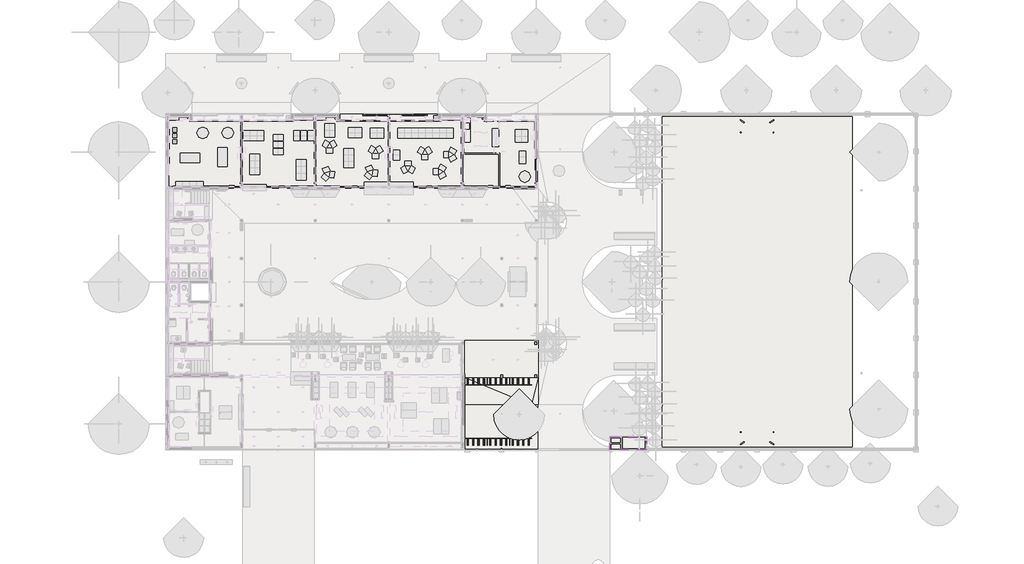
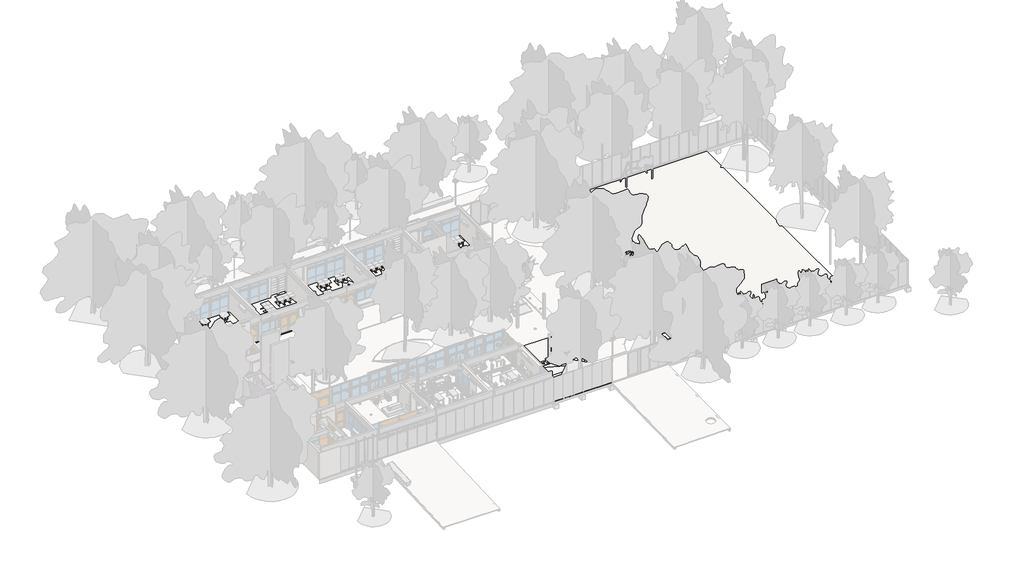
# One storey, part 11 of 22: 13 slabs.
"""IFC4 building model written with IfcOpenShell, lengths in millimetres."""

from ifc_helpers import new_model, si_unit, point, frame, origin, place, context, project, spatial, polyline, circle_curve, ellipse_curve, trimmed, outline, extrude, faceted_brep, element, save
from ifc_brep_helpers import plane_surface, revolved_surface, extruded_surface, advanced_brep

model = new_model("IFC4")

# Units and contexts
model_context = context("Model", 3, world=origin())
ifc_project = project(units=[si_unit("LENGTHUNIT", "METRE", prefix="MILLI")], contexts=[model_context])

# Site, building, storey
site = spatial("IfcSite", under=ifc_project)
building = spatial("IfcBuilding", under=site)
storey = spatial("IfcBuildingStorey", under=building, Name="PLanta baja", Elevation=0.0)

# Slabs
placement = place(None, origin())
element("IfcSlab", 1, ObjectType="P1 Cancha", at=placement, inside=storey, context=model_context, shape_type="Brep", body=[
    faceted_brep([(49747.2173693, 31319.0534459, -310.0), (67237.2173693, 31319.0534459, -310.0), (67237.2173693, 629.0534459, -310.0), (49747.2173693, 629.0534459, -310.0), (67387.2173693, 479.0534459, -50.0), (67387.2173693, 31469.0534459, -50.0), (49597.2173693, 31469.0534459, -50.0), (49597.2173693, 479.0534459, -50.0), (67387.2173693, 479.0534459, -160.0), (67387.2173693, 629.0534459, -160.0), (67387.2173693, 31469.0534459, -160.0), (49597.2173693, 479.0534459, -160.0), (49747.2173693, 479.0534459, -160.0), (49597.2173693, 31469.0534459, -160.0), (67237.2173693, 31469.0534459, -160.0), (49747.2173693, 31469.0534459, -160.0), (49747.2173693, 629.0534459, -160.0), (67237.2173693, 629.0534459, -160.0), (67237.2173693, 31319.0534459, -160.0), (49747.2173693, 31319.0534459, -160.0)], [[[0, 1, 2, 3]], [[4, 5, 6, 7]], [[5, 4, 8, 9, 10]], [[4, 7, 11, 12, 8]], [[7, 6, 13, 11]], [[6, 5, 10, 14, 15, 13]], [[16, 3, 2, 17]], [[8, 12, 11, 13, 15, 14, 10, 9], [16, 17, 18, 19]], [[19, 18, 1, 0]], [[16, 19, 0, 3]], [[18, 17, 2, 1]]]),
])
element("IfcSlab", 2, ObjectType="CONTRAPISO H.A. 15cm", at=placement, inside=storey, context=model_context, shape_type="Brep", body=[
    faceted_brep([(45858.7173693, 1368.5637368, -80.0), (45858.7173693, 1468.5637368, -80.0), (48058.7173693, 1468.5637368, -80.0), (48058.7173693, 1368.5637368, -80.0), (48058.7173693, 360.2304035, -80.0), (48058.7173693, 310.2304035, -80.0), (44788.7173693, 310.2304035, -80.0), (44788.7173693, 360.2304035, -80.0), (44788.7173693, 1368.5637368, -80.0), (45858.7173693, 1368.5637368, 70.0), (45838.7173693, 1368.5637368, 70.0), (44798.7173693, 1368.5637368, 70.0), (44788.7173693, 1368.5637368, 70.0), (44788.7173693, 310.2304035, 70.0), (44798.7173693, 310.2304035, 70.0), (48028.7173693, 310.2304035, 70.0), (48058.7173693, 310.2304035, 70.0), (48058.7173693, 1358.5637368, 70.0), (48058.7173693, 1368.5637368, 70.0), (48058.7173693, 1468.5637368, 70.0), (48038.7173693, 1468.5637368, 70.0), (45858.7173693, 1468.5637368, 70.0), (48058.7173693, 310.2304035, -50.0), (44788.7173693, 310.2304035, -50.0), (44788.7173693, 1368.5637368, -53.946748), (45858.7173693, 1368.5637368, -53.9365478), (45858.7173693, 1468.5637368, -53.9365478), (48058.7173693, 1468.5637368, -52.4097896), (48058.7173693, 1468.5637368, -53.9365478)], [[[0, 1, 2, 3, 4, 5, 6, 7, 8]], [[9, 10, 11, 12, 13, 14, 15, 16, 17, 18, 19, 20, 21]], [[5, 4, 3, 18, 17, 16, 22]], [[6, 5, 22, 16, 15, 14, 13, 23]], [[8, 7, 6, 23, 13, 12, 24]], [[0, 8, 24, 12, 11, 10, 9, 25]], [[1, 0, 25, 9, 21, 26]], [[2, 1, 26, 21, 20, 19, 27, 28]], [[3, 2, 28, 27, 19, 18]]]),
])
element("IfcSlab", 3, ObjectType="MESA-INT-Mesada de hormigón-6cm-PET", at=placement, inside=storey, context=model_context, shape_type="AdvancedBrep", body=[
    advanced_brep(
    [(31003.7173693, 31420.2304035, 828.0), (31609.7173693, 31420.2304035, 828.0), (31609.7173693, 29215.2304035, 828.0), (31609.7173693, 29060.2304035, 828.0), (31003.7173693, 29060.2304035, 828.0), (31003.7173693, 29215.2304035, 828.0), (31003.7173693, 31020.2304035, 828.0), (31003.7173693, 31130.2304035, 828.0), (31158.7173693, 30855.23044, 828.0), (31158.7173693, 30265.23044, 828.0), (31509.7173693, 30265.23044, 828.0), (31509.7173693, 30855.23044, 828.0), (31070.7990924, 30560.2304035, 828.0), (31110.7990924, 30560.2304035, 828.0), (31003.7173693, 31420.2304035, 888.0), (31003.7173693, 29060.2304035, 888.0), (31609.7173693, 29060.2304035, 888.0), (31609.7173693, 31420.2304035, 888.0), (31158.7173693, 30855.23044, 888.0), (31509.7173693, 30855.23044, 888.0), (31509.7173693, 30265.23044, 888.0), (31158.7173693, 30265.23044, 888.0), (31070.7990924, 30560.2304035, 888.0), (31110.7990924, 30560.2304035, 888.0)],
    [
        (0, 1),
        (1, 2),
        (2, 3),
        (3, 4),
        (4, 5),
        (5, 6),
        (6, 7),
        (7, 0),
        (8, 9),
        (9, 10),
        (10, 11),
        (11, 8),
        (12, 13, circle_curve(frame((31090.7990924, 30560.2304035, 828.0), z_axis=(0.0, 0.0, 1.0), x_axis=(1.0, 0.0, 0.0)), 20.0)),
        (13, 12, circle_curve(frame((31090.7990924, 30560.2304035, 828.0), z_axis=(0.0, 0.0, 1.0), x_axis=(1.0, 0.0, 0.0)), 20.0)),
        (14, 15),
        (15, 16),
        (16, 17),
        (17, 14),
        (18, 19),
        (19, 20),
        (20, 21),
        (21, 18),
        (22, 23, circle_curve(frame((31090.7990924, 30560.2304035, 888.0), z_axis=(0.0, 0.0, -1.0), x_axis=(1.0, 0.0, 0.0)), 20.0)),
        (23, 22, circle_curve(frame((31090.7990924, 30560.2304035, 888.0), z_axis=(0.0, 0.0, -1.0), x_axis=(1.0, 0.0, 0.0)), 20.0)),
        (0, 14),
        (17, 1),
        (16, 3),
        (15, 4),
        (8, 18),
        (21, 9),
        (20, 10),
        (19, 11),
        (12, 22),
        (23, 13),
    ],
    [
        plane_surface(frame((31053.7173693, 31420.2304035, 828.0), z_axis=(0.0, 0.0, -1.0), x_axis=(1.0, 0.0, 0.0))),
        plane_surface(frame((31053.7173693, 31420.2304035, 888.0), z_axis=(0.0, 0.0, 1.0), x_axis=(-1.0, 0.0, 0.0))),
        plane_surface(frame((31003.7173693, 31420.2304035, 828.0), z_axis=(0.0, 1.0, 0.0), x_axis=(0.0, 0.0, 1.0))),
        plane_surface(frame((31609.7173693, 31420.2304035, 828.0), z_axis=(1.0, 0.0, 0.0), x_axis=(0.0, 0.0, 1.0))),
        plane_surface(frame((31609.7173693, 29060.2304035, 828.0), z_axis=(0.0, -1.0, 0.0), x_axis=(0.0, 0.0, 1.0))),
        plane_surface(frame((31003.7173693, 29060.2304035, 828.0), z_axis=(-1.0, 0.0, 0.0), x_axis=(0.0, 0.0, 1.0))),
        plane_surface(frame((31158.7173693, 30855.23044, 828.0), z_axis=(1.0, 0.0, 0.0), x_axis=(0.0, 0.0, 1.0))),
        plane_surface(frame((31158.7173693, 30265.23044, 828.0), z_axis=(0.0, 1.0, 0.0), x_axis=(0.0, 0.0, 1.0))),
        plane_surface(frame((31509.7173693, 30265.23044, 828.0), z_axis=(-1.0, 0.0, 0.0), x_axis=(0.0, 0.0, 1.0))),
        plane_surface(frame((31509.7173693, 30855.23044, 828.0), z_axis=(0.0, -1.0, 0.0), x_axis=(0.0, 0.0, 1.0))),
        revolved_surface(polyline([(31110.7990924, 30560.2304035, 888.0), (31110.7990924, 30560.2304035, 828.0)]), (31090.7990924, 30560.2304035, 0.0), (0.0, 0.0, 1.0)),
    ],
    [
        (0, [[1, 2, 3, 4, 5, 6, 7, 8], [9, 10, 11, 12], [13, 14]]),
        (1, [[15, 16, 17, 18], [19, 20, 21, 22], [23, 24]]),
        (2, [[-1, 25, -18, 26]]),
        (3, [[-3, -2, -26, -17, 27]]),
        (4, [[-4, -27, -16, 28]]),
        (5, [[-8, -7, -6, -5, -28, -15, -25]]),
        (6, [[-9, 29, -22, 30]]),
        (7, [[-10, -30, -21, 31]]),
        (8, [[-11, -31, -20, 32]]),
        (9, [[-12, -32, -19, -29]]),
        (10, [[-13, 33, -24, 34]]),
        (10, [[-14, -34, -23, -33]]),
    ],
),
])
element("IfcSlab", 4, ObjectType="BANQUINA 13cm", at=placement, inside=storey, context=model_context, shape_type="SweptSolid", body=[
    extrude(outline(polyline([(31543.7173693, 31020.2304035), (31543.7173693, 29215.2304035), (31003.7173693, 29215.2304035), (31003.7173693, 31020.2304035), (31543.7173693, 31020.2304035)])), frame((0.0, 0.0, -50.0), z_axis=(0.0, 0.0, 1.0), x_axis=(1.0, 0.0, 0.0)), (0.0, 0.0, 1.0), 120.0),
])
element("IfcSlab", 5, ObjectType="C30 MONOLITICO 30x30 5cm", at=placement, inside=storey, context=model_context, shape_type="AdvancedBrep", body=[
    advanced_brep(
    [(3403.7173694, 31430.2304035, -50.0), (5288.7173693, 31430.2304035, -50.0), (5288.7173693, 31020.2304035, -50.0), (5588.7173693, 31020.2304035, -50.0), (10288.7173694, 31020.2304035, -50.0), (15088.7173693, 31020.2304035, -50.0), (15088.7173693, 31430.2304035, -50.0), (16988.7173693, 31430.2304035, -50.0), (16988.7173693, 31020.2304035, -50.0), (17188.7173694, 31020.2304035, -50.0), (17188.7173694, 31430.2304035, -50.0), (19088.7173693, 31430.2304035, -50.0), (19088.7173693, 31020.2304035, -50.0), (19388.7173693, 31020.2304035, -50.0), (28888.7173693, 31020.2304035, -50.0), (28888.7173693, 31430.2304035, -50.0), (30788.7173693, 31430.2304035, -50.0), (30788.7173693, 31020.2304035, -50.0), (31003.7173693, 31020.2304035, -50.0), (31003.7173693, 29215.2304035, -50.0), (31003.7173693, 29060.2304035, -50.0), (31543.7173693, 29060.2304035, -50.0), (31543.7173693, 29215.2304035, -50.0), (31543.7173693, 31020.2304035, -50.0), (31609.7173693, 31020.2304035, -50.0), (31609.7173693, 31420.2304035, -50.0), (32878.7173693, 31420.2304035, -50.0), (32878.7173693, 31020.2304035, -50.0), (37673.7173693, 31020.2304035, -50.0), (37673.7173693, 27520.2304035, -50.0), (37688.7173693, 27520.2304035, -50.0), (37688.7173693, 24720.3804035, -50.0), (33188.7173693, 24720.3804035, -50.0), (33188.7173693, 24920.2304035, -50.0), (30988.7173693, 24920.2304035, -50.0), (30988.7173693, 25320.2304035, -50.0), (30788.7173693, 25320.2304035, -50.0), (30788.7173693, 24920.2304035, -50.0), (28588.7173694, 24920.2304035, -50.0), (28588.7173694, 24720.2304035, -50.0), (24088.7173694, 24720.2304035, -50.0), (24088.7173694, 24920.2304035, -50.0), (24088.7173694, 25320.2304035, -50.0), (23888.7173694, 25320.2304035, -50.0), (23888.7173694, 24920.2304035, -50.0), (23888.7173694, 24720.2304035, -50.0), (19388.7173693, 24720.2304035, -50.0), (19388.7173693, 24920.2304035, -50.0), (17188.7173694, 24920.2304035, -50.0), (17188.7173694, 25320.2304035, -50.0), (16988.7173694, 25320.2304035, -50.0), (16988.7173694, 24920.2304035, -50.0), (14788.7173694, 24920.2304035, -50.0), (14788.7173694, 24720.2304035, -50.0), (10288.7173694, 24720.2304035, -50.0), (10288.7173694, 25320.2304035, -50.0), (10088.7173694, 25320.2304035, -50.0), (10088.7173694, 24720.2304035, -50.0), (8938.7173694, 24720.2304035, -50.0), (8938.7173694, 24935.2304035, -50.0), (3788.7173693, 24935.2304035, -50.0), (3788.7173693, 24920.2304035, -50.0), (3388.7173694, 24920.2304035, -50.0), (3388.7173694, 27020.2304035, -50.0), (3403.7173694, 27020.2304035, -50.0), (32738.7518286, 31272.1143538, -50.0), (32838.7518286, 31272.1143538, -50.0), (18947.5018286, 31271.4893538, -50.0), (19047.5018286, 31271.4893538, -50.0), (5143.7563809, 31272.1210634, -50.0), (5243.7563809, 31272.1210634, -50.0), (3403.7173694, 31430.2304035, 0.0), (3403.7173694, 27020.2304035, 0.0), (3388.7173694, 27020.2304035, 0.0), (3388.7173694, 24920.2304035, 0.0), (3788.7173693, 24920.2304035, 0.0), (3788.7173693, 24935.2304035, 0.0), (8938.7173694, 24935.2304035, 0.0), (8938.7173694, 24720.2304035, 0.0), (10088.7173694, 24720.2304035, 0.0), (10088.7173694, 25320.2304035, 0.0), (10288.7173694, 25320.2304035, 0.0), (10288.7173694, 24720.2304035, 0.0), (14788.7173694, 24720.2304035, 0.0), (14788.7173694, 24920.2304035, 0.0), (16988.7173694, 24920.2304035, 0.0), (16988.7173694, 25320.2304035, 0.0), (17188.7173694, 25320.2304035, 0.0), (17188.7173694, 24920.2304035, 0.0), (19388.7173693, 24920.2304035, 0.0), (19388.7173693, 24720.2304035, 0.0), (23888.7173694, 24720.2304035, 0.0), (23888.7173694, 24920.2304035, 0.0), (23888.7173694, 25320.2304035, 0.0), (24088.7173694, 25320.2304035, 0.0), (24088.7173694, 24920.2304035, 0.0), (24088.7173694, 24720.2304035, 0.0), (28588.7173694, 24720.2304035, 0.0), (28588.7173694, 24920.2304035, 0.0), (30788.7173693, 24920.2304035, 0.0), (30788.7173693, 25320.2304035, 0.0), (30988.7173693, 25320.2304035, 0.0), (30988.7173693, 24920.2304035, 0.0), (33188.7173693, 24920.2304035, 0.0), (33188.7173693, 24720.3804035, 0.0), (37688.7173693, 24720.3804035, 0.0), (37688.7173693, 27520.2304035, 0.0), (37673.7173693, 27520.2304035, 0.0), (37673.7173693, 31020.2304035, 0.0), (32878.7173693, 31020.2304035, 0.0), (32878.7173693, 31420.2304035, 0.0), (31609.7173693, 31420.2304035, 0.0), (31609.7173693, 31020.2304035, 0.0), (31543.7173693, 31020.2304035, 0.0), (31543.7173693, 29215.2304035, 0.0), (31543.7173693, 29060.2304035, 0.0), (31003.7173693, 29060.2304035, 0.0), (31003.7173693, 31020.2304035, 0.0), (30788.7173693, 31020.2304035, 0.0), (30788.7173693, 31430.2304035, 0.0), (28888.7173693, 31430.2304035, 0.0), (28888.7173693, 31020.2304035, 0.0), (19388.7173693, 31020.2304035, 0.0), (19088.7173693, 31020.2304035, 0.0), (19088.7173693, 31430.2304035, 0.0), (17188.7173694, 31430.2304035, 0.0), (17188.7173694, 31020.2304035, 0.0), (16988.7173693, 31020.2304035, 0.0), (16988.7173693, 31430.2304035, 0.0), (15088.7173693, 31430.2304035, 0.0), (15088.7173693, 31020.2304035, 0.0), (10288.7173694, 31020.2304035, 0.0), (5588.7173693, 31020.2304035, 0.0), (5288.7173693, 31020.2304035, 0.0), (5288.7173693, 31430.2304035, 0.0), (32738.7518286, 31272.1143538, 0.0), (32838.7518286, 31272.1143538, 0.0), (18947.5018286, 31271.4893538, 0.0), (19047.5018286, 31271.4893538, 0.0), (5143.7563809, 31272.1210634, 0.0), (5243.7563809, 31272.1210634, 0.0)],
    [
        (0, 1),
        (1, 2),
        (2, 3),
        (3, 4),
        (4, 5),
        (5, 6),
        (6, 7),
        (7, 8),
        (8, 9),
        (9, 10),
        (10, 11),
        (11, 12),
        (12, 13),
        (13, 14),
        (14, 15),
        (15, 16),
        (16, 17),
        (17, 18),
        (18, 19),
        (19, 20),
        (20, 21),
        (21, 22),
        (22, 23),
        (23, 24),
        (24, 25),
        (25, 26),
        (26, 27),
        (27, 28),
        (28, 29),
        (29, 30),
        (30, 31),
        (31, 32),
        (32, 33),
        (33, 34),
        (34, 35),
        (35, 36),
        (36, 37),
        (37, 38),
        (38, 39),
        (39, 40),
        (40, 41),
        (41, 42),
        (42, 43),
        (43, 44),
        (44, 45),
        (45, 46),
        (46, 47),
        (47, 48),
        (48, 49),
        (49, 50),
        (50, 51),
        (51, 52),
        (52, 53),
        (53, 54),
        (54, 55),
        (55, 56),
        (56, 57),
        (57, 58),
        (58, 59),
        (59, 60),
        (60, 61),
        (61, 62),
        (62, 63),
        (63, 64),
        (64, 0),
        (65, 66, circle_curve(frame((32788.7518286, 31272.1143538, -50.0), z_axis=(0.0, 0.0, 1.0), x_axis=(1.0, 0.0, 0.0)), 50.0)),
        (66, 65, circle_curve(frame((32788.7518286, 31272.1143538, -50.0), z_axis=(0.0, 0.0, 1.0), x_axis=(1.0, 0.0, 0.0)), 50.0)),
        (67, 68, circle_curve(frame((18997.5018286, 31271.4893538, -50.0), z_axis=(0.0, 0.0, 1.0), x_axis=(1.0, 0.0, 0.0)), 50.0)),
        (68, 67, circle_curve(frame((18997.5018286, 31271.4893538, -50.0), z_axis=(0.0, 0.0, 1.0), x_axis=(1.0, 0.0, 0.0)), 50.0)),
        (69, 70, circle_curve(frame((5193.7563809, 31272.1210634, -50.0), z_axis=(0.0, 0.0, 1.0), x_axis=(1.0, 0.0, 0.0)), 50.0)),
        (70, 69, circle_curve(frame((5193.7563809, 31272.1210634, -50.0), z_axis=(0.0, 0.0, 1.0), x_axis=(1.0, 0.0, 0.0)), 50.0)),
        (71, 72),
        (72, 73),
        (73, 74),
        (74, 75),
        (75, 76),
        (76, 77),
        (77, 78),
        (78, 79),
        (79, 80),
        (80, 81),
        (81, 82),
        (82, 83),
        (83, 84),
        (84, 85),
        (85, 86),
        (86, 87),
        (87, 88),
        (88, 89),
        (89, 90),
        (90, 91),
        (91, 92),
        (92, 93),
        (93, 94),
        (94, 95),
        (95, 96),
        (96, 97),
        (97, 98),
        (98, 99),
        (99, 100),
        (100, 101),
        (101, 102),
        (102, 103),
        (103, 104),
        (104, 105),
        (105, 106),
        (106, 107),
        (107, 108),
        (108, 109),
        (109, 110),
        (110, 111),
        (111, 112),
        (112, 113),
        (113, 114),
        (114, 115),
        (115, 116),
        (116, 117),
        (117, 118),
        (118, 119),
        (119, 120),
        (120, 121),
        (121, 122),
        (122, 123),
        (123, 124),
        (124, 125),
        (125, 126),
        (126, 127),
        (127, 128),
        (128, 129),
        (129, 130),
        (130, 131),
        (131, 132),
        (132, 133),
        (133, 134),
        (134, 71),
        (135, 136, circle_curve(frame((32788.7518286, 31272.1143538, 0.0), z_axis=(0.0, 0.0, -1.0), x_axis=(1.0, 0.0, 0.0)), 50.0)),
        (136, 135, circle_curve(frame((32788.7518286, 31272.1143538, 0.0), z_axis=(0.0, 0.0, -1.0), x_axis=(1.0, 0.0, 0.0)), 50.0)),
        (137, 138, circle_curve(frame((18997.5018286, 31271.4893538, 0.0), z_axis=(0.0, 0.0, -1.0), x_axis=(1.0, 0.0, 0.0)), 50.0)),
        (138, 137, circle_curve(frame((18997.5018286, 31271.4893538, 0.0), z_axis=(0.0, 0.0, -1.0), x_axis=(1.0, 0.0, 0.0)), 50.0)),
        (139, 140, circle_curve(frame((5193.7563809, 31272.1210634, 0.0), z_axis=(0.0, 0.0, -1.0), x_axis=(1.0, 0.0, 0.0)), 50.0)),
        (140, 139, circle_curve(frame((5193.7563809, 31272.1210634, 0.0), z_axis=(0.0, 0.0, -1.0), x_axis=(1.0, 0.0, 0.0)), 50.0)),
        (0, 71),
        (134, 1),
        (133, 2),
        (132, 3),
        (131, 4),
        (130, 5),
        (129, 6),
        (128, 7),
        (127, 8),
        (126, 9),
        (125, 10),
        (124, 11),
        (123, 12),
        (122, 13),
        (121, 14),
        (120, 15),
        (119, 16),
        (118, 17),
        (117, 18),
        (21, 115),
        (113, 23),
        (25, 111),
        (110, 26),
        (109, 27),
        (108, 28),
        (107, 29),
        (106, 30),
        (105, 31),
        (33, 103),
        (102, 34),
        (101, 35),
        (100, 36),
        (99, 37),
        (98, 38),
        (41, 95),
        (94, 42),
        (93, 43),
        (92, 44),
        (47, 89),
        (88, 48),
        (87, 49),
        (86, 50),
        (85, 51),
        (84, 52),
        (54, 82),
        (81, 55),
        (80, 56),
        (79, 57),
        (59, 77),
        (76, 60),
        (64, 72),
        (65, 135),
        (136, 66),
        (67, 137),
        (138, 68),
        (69, 139),
        (140, 70),
        (116, 20),
        (62, 74),
        (73, 63),
        (75, 61),
        (97, 39),
        (96, 40),
        (91, 45),
        (90, 46),
        (112, 24),
        (104, 32),
        (83, 53),
        (78, 58),
    ],
    [
        plane_surface(frame((3388.7173694, 31430.2304035, -50.0), z_axis=(0.0, 0.0, -1.0), x_axis=(1.0, 0.0, 0.0))),
        plane_surface(frame((3388.7173694, 31430.2304035, 0.0), z_axis=(0.0, 0.0, 1.0), x_axis=(-1.0, 0.0, 0.0))),
        plane_surface(frame((3403.7173694, 31430.2304035, -50.0), z_axis=(0.0, 1.0, 0.0), x_axis=(0.0, 0.0, 1.0))),
        plane_surface(frame((5288.7173693, 31430.2304035, -50.0), z_axis=(1.0, 0.0, 0.0), x_axis=(0.0, 0.0, 1.0))),
        plane_surface(frame((5288.7173693, 31020.2304035, -50.0), z_axis=(0.0, 1.0, 0.0), x_axis=(0.0, 0.0, 1.0))),
        plane_surface(frame((5588.7173693, 31020.2304035, -50.0), z_axis=(0.0, 1.0, 0.0), x_axis=(0.0, 0.0, 1.0))),
        plane_surface(frame((10288.7173694, 31020.2304035, -50.0), z_axis=(0.0, 1.0, 0.0), x_axis=(0.0, 0.0, 1.0))),
        plane_surface(frame((15088.7173693, 31020.2304035, -50.0), z_axis=(-1.0, 0.0, 0.0), x_axis=(0.0, 0.0, 1.0))),
        plane_surface(frame((15088.7173693, 31430.2304035, -50.0), z_axis=(0.0, 1.0, 0.0), x_axis=(0.0, 0.0, 1.0))),
        plane_surface(frame((16988.7173693, 31430.2304035, -50.0), z_axis=(1.0, 0.0, 0.0), x_axis=(0.0, 0.0, 1.0))),
        plane_surface(frame((16988.7173693, 31020.2304035, -50.0), z_axis=(0.0, 1.0, 0.0), x_axis=(0.0, 0.0, 1.0))),
        plane_surface(frame((17188.7173694, 31020.2304035, -50.0), z_axis=(-1.0, 0.0, 0.0), x_axis=(0.0, 0.0, 1.0))),
        plane_surface(frame((17188.7173694, 31430.2304035, -50.0), z_axis=(0.0, 1.0, 0.0), x_axis=(0.0, 0.0, 1.0))),
        plane_surface(frame((19088.7173693, 31430.2304035, -50.0), z_axis=(1.0, 0.0, 0.0), x_axis=(0.0, 0.0, 1.0))),
        plane_surface(frame((19088.7173693, 31020.2304035, -50.0), z_axis=(0.0, 1.0, 0.0), x_axis=(0.0, 0.0, 1.0))),
        plane_surface(frame((19388.7173693, 31020.2304035, -50.0), z_axis=(0.0, 1.0, 0.0), x_axis=(0.0, 0.0, 1.0))),
        plane_surface(frame((28888.7173693, 31020.2304035, -50.0), z_axis=(-1.0, 0.0, 0.0), x_axis=(0.0, 0.0, 1.0))),
        plane_surface(frame((28888.7173693, 31430.2304035, -50.0), z_axis=(0.0, 1.0, 0.0), x_axis=(0.0, 0.0, 1.0))),
        plane_surface(frame((30788.7173693, 31430.2304035, -50.0), z_axis=(1.0, 0.0, 0.0), x_axis=(0.0, 0.0, 1.0))),
        plane_surface(frame((30788.7173693, 31020.2304035, -50.0), z_axis=(0.0, 1.0, 0.0), x_axis=(0.0, 0.0, 1.0))),
        plane_surface(frame((31543.7173693, 29060.2304035, -50.0), z_axis=(-1.0, 0.0, 0.0), x_axis=(0.0, 0.0, 1.0))),
        plane_surface(frame((31609.7173693, 31420.2304035, -50.0), z_axis=(0.0, 1.0, 0.0), x_axis=(0.0, 0.0, 1.0))),
        plane_surface(frame((32878.7173693, 31420.2304035, -50.0), z_axis=(1.0, 0.0, 0.0), x_axis=(0.0, 0.0, 1.0))),
        plane_surface(frame((32878.7173693, 31020.2304035, -50.0), z_axis=(0.0, 1.0, 0.0), x_axis=(0.0, 0.0, 1.0))),
        plane_surface(frame((37673.7173693, 31020.2304035, -50.0), z_axis=(1.0, 0.0, 0.0), x_axis=(0.0, 0.0, 1.0))),
        plane_surface(frame((37673.7173693, 27520.2304035, -50.0), z_axis=(0.0, 1.0, 0.0), x_axis=(0.0, 0.0, 1.0))),
        plane_surface(frame((37688.7173693, 27520.2304035, -50.0), z_axis=(1.0, 0.0, 0.0), x_axis=(0.0, 0.0, 1.0))),
        plane_surface(frame((33188.7173693, 24920.2304035, -50.0), z_axis=(0.0, -1.0, 0.0), x_axis=(0.0, 0.0, 1.0))),
        plane_surface(frame((30988.7173693, 24920.2304035, -50.0), z_axis=(-1.0, 0.0, 0.0), x_axis=(0.0, 0.0, 1.0))),
        plane_surface(frame((30988.7173693, 25320.2304035, -50.0), z_axis=(0.0, -1.0, 0.0), x_axis=(0.0, 0.0, 1.0))),
        plane_surface(frame((30788.7173693, 25320.2304035, -50.0), z_axis=(1.0, 0.0, 0.0), x_axis=(0.0, 0.0, 1.0))),
        plane_surface(frame((30788.7173693, 24920.2304035, -50.0), z_axis=(0.0, -1.0, 0.0), x_axis=(0.0, 0.0, 1.0))),
        plane_surface(frame((24088.7173694, 24920.2304035, -50.0), z_axis=(-1.0, 0.0, 0.0), x_axis=(0.0, 0.0, 1.0))),
        plane_surface(frame((24088.7173694, 25320.2304035, -50.0), z_axis=(0.0, -1.0, 0.0), x_axis=(0.0, 0.0, 1.0))),
        plane_surface(frame((23888.7173694, 25320.2304035, -50.0), z_axis=(1.0, 0.0, 0.0), x_axis=(0.0, 0.0, 1.0))),
        plane_surface(frame((19388.7173693, 24920.2304035, -50.0), z_axis=(0.0, -1.0, 0.0), x_axis=(0.0, 0.0, 1.0))),
        plane_surface(frame((17188.7173694, 24920.2304035, -50.0), z_axis=(-1.0, 0.0, 0.0), x_axis=(0.0, 0.0, 1.0))),
        plane_surface(frame((17188.7173694, 25320.2304035, -50.0), z_axis=(0.0, -1.0, 0.0), x_axis=(0.0, 0.0, 1.0))),
        plane_surface(frame((16988.7173694, 25320.2304035, -50.0), z_axis=(1.0, 0.0, 0.0), x_axis=(0.0, 0.0, 1.0))),
        plane_surface(frame((16988.7173694, 24920.2304035, -50.0), z_axis=(0.0, -1.0, 0.0), x_axis=(0.0, 0.0, 1.0))),
        plane_surface(frame((10288.7173694, 24720.2304035, -50.0), z_axis=(-1.0, 0.0, 0.0), x_axis=(0.0, 0.0, 1.0))),
        plane_surface(frame((10288.7173694, 25320.2304035, -50.0), z_axis=(0.0, -1.0, 0.0), x_axis=(0.0, 0.0, 1.0))),
        plane_surface(frame((10088.7173694, 25320.2304035, -50.0), z_axis=(1.0, 0.0, 0.0), x_axis=(0.0, 0.0, 1.0))),
        plane_surface(frame((8938.7173694, 24935.2304035, -50.0), z_axis=(0.0, -1.0, 0.0), x_axis=(0.0, 0.0, 1.0))),
        plane_surface(frame((3403.7173694, 27020.2304035, -50.0), z_axis=(-1.0, 0.0, 0.0), x_axis=(0.0, 0.0, 1.0))),
        revolved_surface(polyline([(32838.7518286, 31272.1143538, 0.0), (32838.7518286, 31272.1143538, -50.0)]), (32788.7518286, 31272.1143538, 0.0), (0.0, 0.0, 1.0)),
        revolved_surface(polyline([(19047.5018286, 31271.4893538, 0.0), (19047.5018286, 31271.4893538, -50.0)]), (18997.5018286, 31271.4893538, 0.0), (0.0, 0.0, 1.0)),
        revolved_surface(polyline([(5243.7563809, 31272.1210634, 0.0), (5243.7563809, 31272.1210634, -50.0)]), (5193.7563809, 31272.1210634, 0.0), (0.0, 0.0, 1.0)),
        plane_surface(frame((31003.7173693, 31020.2304035, -50.0), z_axis=(1.0, 0.0, 0.0), x_axis=(0.0, 0.0, 1.0))),
        plane_surface(frame((31003.7173693, 29060.2304035, -50.0), z_axis=(0.0, 1.0, 0.0), x_axis=(0.0, 0.0, 1.0))),
        plane_surface(frame((3388.7173694, 24920.2304035, -50.0), z_axis=(-1.0, 0.0, 0.0), x_axis=(0.0, 0.0, 1.0))),
        plane_surface(frame((3388.7173694, 27020.2304035, -50.0), z_axis=(0.0, 1.0, 0.0), x_axis=(0.0, 0.0, 1.0))),
        plane_surface(frame((3788.7173693, 24935.2304035, -50.0), z_axis=(1.0, 0.0, 0.0), x_axis=(0.0, 0.0, 1.0))),
        plane_surface(frame((3788.7173693, 24920.2304035, -50.0), z_axis=(0.0, -1.0, 0.0), x_axis=(0.0, 0.0, 1.0))),
        plane_surface(frame((28588.7173694, 24920.2304035, -50.0), z_axis=(1.0, 0.0, 0.0), x_axis=(0.0, 0.0, 1.0))),
        plane_surface(frame((28588.7173694, 24720.2304035, -50.0), z_axis=(0.0, -1.0, 0.0), x_axis=(0.0, 0.0, 1.0))),
        plane_surface(frame((24088.7173694, 24720.2304035, -50.0), z_axis=(-1.0, 0.0, 0.0), x_axis=(0.0, 0.0, 1.0))),
        plane_surface(frame((23888.7173694, 24920.2304035, -50.0), z_axis=(1.0, 0.0, 0.0), x_axis=(0.0, 0.0, 1.0))),
        plane_surface(frame((23888.7173694, 24720.2304035, -50.0), z_axis=(0.0, -1.0, 0.0), x_axis=(0.0, 0.0, 1.0))),
        plane_surface(frame((19388.7173693, 24720.2304035, -50.0), z_axis=(-1.0, 0.0, 0.0), x_axis=(0.0, 0.0, 1.0))),
        plane_surface(frame((31543.7173693, 31020.2304035, -50.0), z_axis=(0.0, 1.0, 0.0), x_axis=(0.0, 0.0, 1.0))),
        plane_surface(frame((31609.7173693, 31020.2304035, -50.0), z_axis=(-1.0, 0.0, 0.0), x_axis=(0.0, 0.0, 1.0))),
        plane_surface(frame((37688.7173693, 24720.3804035, -50.0), z_axis=(0.0, -1.0, 0.0), x_axis=(0.0, 0.0, 1.0))),
        plane_surface(frame((33188.7173693, 24720.3804035, -50.0), z_axis=(-1.0, 0.0, 0.0), x_axis=(0.0, 0.0, 1.0))),
        plane_surface(frame((14788.7173694, 24920.2304035, -50.0), z_axis=(1.0, 0.0, 0.0), x_axis=(0.0, 0.0, 1.0))),
        plane_surface(frame((14788.7173694, 24720.2304035, -50.0), z_axis=(0.0, -1.0, 0.0), x_axis=(0.0, 0.0, 1.0))),
        plane_surface(frame((10088.7173694, 24720.2304035, -50.0), z_axis=(0.0, -1.0, 0.0), x_axis=(0.0, 0.0, 1.0))),
        plane_surface(frame((8938.7173694, 24720.2304035, -50.0), z_axis=(-1.0, 0.0, 0.0), x_axis=(0.0, 0.0, 1.0))),
    ],
    [
        (0, [[1, 2, 3, 4, 5, 6, 7, 8, 9, 10, 11, 12, 13, 14, 15, 16, 17, 18, 19, 20, 21, 22, 23, 24, 25, 26, 27, 28, 29, 30, 31, 32, 33, 34, 35, 36, 37, 38, 39, 40, 41, 42, 43, 44, 45, 46, 47, 48, 49, 50, 51, 52, 53, 54, 55, 56, 57, 58, 59, 60, 61, 62, 63, 64, 65], [66, 67], [68, 69], [70, 71]]),
        (1, [[72, 73, 74, 75, 76, 77, 78, 79, 80, 81, 82, 83, 84, 85, 86, 87, 88, 89, 90, 91, 92, 93, 94, 95, 96, 97, 98, 99, 100, 101, 102, 103, 104, 105, 106, 107, 108, 109, 110, 111, 112, 113, 114, 115, 116, 117, 118, 119, 120, 121, 122, 123, 124, 125, 126, 127, 128, 129, 130, 131, 132, 133, 134, 135], [136, 137], [138, 139], [140, 141]]),
        (2, [[-1, 142, -135, 143]]),
        (3, [[-2, -143, -134, 144]]),
        (4, [[-3, -144, -133, 145]]),
        (5, [[-4, -145, -132, 146]]),
        (6, [[-5, -146, -131, 147]]),
        (7, [[-6, -147, -130, 148]]),
        (8, [[-7, -148, -129, 149]]),
        (9, [[-8, -149, -128, 150]]),
        (10, [[-9, -150, -127, 151]]),
        (11, [[-10, -151, -126, 152]]),
        (12, [[-11, -152, -125, 153]]),
        (13, [[-12, -153, -124, 154]]),
        (14, [[-13, -154, -123, 155]]),
        (15, [[-14, -155, -122, 156]]),
        (16, [[-15, -156, -121, 157]]),
        (17, [[-16, -157, -120, 158]]),
        (18, [[-17, -158, -119, 159]]),
        (19, [[-18, -159, -118, 160]]),
        (20, [[-23, -22, 161, -115, -114, 162]]),
        (21, [[-26, 163, -111, 164]]),
        (22, [[-27, -164, -110, 165]]),
        (23, [[-28, -165, -109, 166]]),
        (24, [[-29, -166, -108, 167]]),
        (25, [[-30, -167, -107, 168]]),
        (26, [[-31, -168, -106, 169]]),
        (27, [[-34, 170, -103, 171]]),
        (28, [[-35, -171, -102, 172]]),
        (29, [[-36, -172, -101, 173]]),
        (30, [[-37, -173, -100, 174]]),
        (31, [[-38, -174, -99, 175]]),
        (32, [[-42, 176, -95, 177]]),
        (33, [[-43, -177, -94, 178]]),
        (34, [[-44, -178, -93, 179]]),
        (35, [[-48, 180, -89, 181]]),
        (36, [[-49, -181, -88, 182]]),
        (37, [[-50, -182, -87, 183]]),
        (38, [[-51, -183, -86, 184]]),
        (39, [[-52, -184, -85, 185]]),
        (40, [[-55, 186, -82, 187]]),
        (41, [[-56, -187, -81, 188]]),
        (42, [[-57, -188, -80, 189]]),
        (43, [[-60, 190, -77, 191]]),
        (44, [[-65, 192, -72, -142]]),
        (45, [[-66, 193, -137, 194]]),
        (45, [[-67, -194, -136, -193]]),
        (46, [[-68, 195, -139, 196]]),
        (46, [[-69, -196, -138, -195]]),
        (47, [[-70, 197, -141, 198]]),
        (47, [[-71, -198, -140, -197]]),
        (48, [[-20, -19, -160, -117, 199]]),
        (49, [[-21, -199, -116, -161]]),
        (50, [[-63, 200, -74, 201]]),
        (51, [[-64, -201, -73, -192]]),
        (52, [[-61, -191, -76, 202]]),
        (53, [[-62, -202, -75, -200]]),
        (54, [[-39, -175, -98, 203]]),
        (55, [[-40, -203, -97, 204]]),
        (56, [[-41, -204, -96, -176]]),
        (57, [[-45, -179, -92, 205]]),
        (58, [[-46, -205, -91, 206]]),
        (59, [[-47, -206, -90, -180]]),
        (60, [[-24, -162, -113, 207]]),
        (61, [[-25, -207, -112, -163]]),
        (62, [[-32, -169, -105, 208]]),
        (63, [[-33, -208, -104, -170]]),
        (64, [[-53, -185, -84, 209]]),
        (65, [[-54, -209, -83, -186]]),
        (66, [[-58, -189, -79, 210]]),
        (67, [[-59, -210, -78, -190]]),
    ],
),
])
element("IfcSlab", 6, ObjectType="Sub base y descalce fundaciones 35cm", at=placement, inside=storey, context=model_context, shape_type="Brep", body=[
    faceted_brep([(3388.7173693, 31420.2304035, -510.0), (5588.7173693, 31420.2304035, -510.0), (10088.7173694, 31420.2304035, -510.0), (10088.7173694, 24920.2304035, -510.0), (3788.7173693, 24920.2304035, -510.0), (3388.7173693, 24920.2304035, -510.0), (3388.7173693, 27020.2304035, -510.0), (5588.7173693, 31420.2304035, -160.0), (3388.7173693, 31420.2304035, -160.0), (3388.7173693, 28245.2304035, -160.0), (6663.7173693, 28245.2304035, -160.0), (6663.7173693, 31420.2304035, -160.0), (3388.7173693, 27020.2304035, -160.0), (3388.7173693, 24920.2304035, -160.0), (3788.7173693, 24920.2304035, -160.0), (6663.7173693, 24920.2304035, -160.0), (6663.7173693, 28095.2304035, -160.0), (3388.7173693, 28095.2304035, -160.0), (6813.7173693, 24920.2304035, -160.0), (10088.7173694, 24920.2304035, -160.0), (10088.7173694, 28095.2304035, -160.0), (6813.7173693, 28095.2304035, -160.0), (10088.7173694, 31420.2304035, -160.0), (6813.7173693, 31420.2304035, -160.0), (6813.7173693, 28245.2304035, -160.0), (10088.7173694, 28245.2304035, -160.0), (6663.7173693, 31420.2304035, -410.0), (6813.7173693, 31420.2304035, -410.0), (10088.7173694, 28245.2304035, -410.0), (10088.7173694, 28095.2304035, -410.0), (6813.7173693, 24920.2304035, -410.0), (6663.7173693, 24920.2304035, -410.0), (3388.7173693, 28095.2304035, -410.0), (3388.7173693, 28245.2304035, -410.0), (6663.7173693, 28245.2304035, -410.0), (6663.7173693, 28095.2304035, -410.0), (6813.7173693, 28095.2304035, -410.0), (6813.7173693, 28245.2304035, -410.0)], [[[0, 1, 2, 3, 4, 5, 6]], [[7, 8, 9, 10, 11]], [[12, 13, 14, 15, 16, 17]], [[18, 19, 20, 21]], [[22, 23, 24, 25]], [[1, 0, 8, 7]], [[2, 1, 7, 11, 26, 27, 23, 22]], [[3, 2, 22, 25, 28, 29, 20, 19]], [[4, 3, 19, 18, 30, 31, 15, 14]], [[0, 6, 12, 17, 32, 33, 9, 8]], [[6, 5, 13, 12]], [[5, 4, 14, 13]], [[26, 11, 10, 34]], [[15, 31, 35, 16]], [[27, 26, 34, 33, 32, 35, 31, 30, 36, 29, 28, 37]], [[23, 27, 37, 24]], [[30, 18, 21, 36]], [[29, 36, 21, 20]], [[35, 32, 17, 16]], [[37, 28, 25, 24]], [[33, 34, 10, 9]]]),
    faceted_brep([(10288.7173694, 31420.2304035, -510.0), (15088.7173693, 31420.2304035, -510.0), (16988.7173694, 31420.2304035, -510.0), (16988.7173694, 24920.2304035, -510.0), (10288.7173694, 24920.2304035, -510.0), (16988.7173694, 31420.2304035, -160.0), (15088.7173693, 31420.2304035, -160.0), (13713.7173693, 31420.2304035, -160.0), (13713.7173693, 28245.2304035, -160.0), (16988.7173694, 28245.2304035, -160.0), (13563.7173693, 31420.2304035, -160.0), (10288.7173694, 31420.2304035, -160.0), (10288.7173694, 28245.2304035, -160.0), (13563.7173693, 28245.2304035, -160.0), (10288.7173694, 24920.2304035, -160.0), (13563.7173693, 24920.2304035, -160.0), (13563.7173693, 28095.2304035, -160.0), (10288.7173694, 28095.2304035, -160.0), (13713.7173693, 24920.2304035, -160.0), (16988.7173694, 24920.2304035, -160.0), (16988.7173694, 28095.2304035, -160.0), (13713.7173693, 28095.2304035, -160.0), (13563.7173693, 31420.2304035, -410.0), (13713.7173693, 31420.2304035, -410.0), (16988.7173694, 28245.2304035, -410.0), (16988.7173694, 28095.2304035, -410.0), (13713.7173693, 24920.2304035, -410.0), (13563.7173693, 24920.2304035, -410.0), (10288.7173694, 28095.2304035, -410.0), (10288.7173694, 28245.2304035, -410.0), (13563.7173693, 28245.2304035, -410.0), (13563.7173693, 28095.2304035, -410.0), (13713.7173693, 28095.2304035, -410.0), (13713.7173693, 28245.2304035, -410.0)], [[[0, 1, 2, 3, 4]], [[5, 6, 7, 8, 9]], [[10, 11, 12, 13]], [[14, 15, 16, 17]], [[18, 19, 20, 21]], [[1, 0, 11, 10, 22, 23, 7, 6]], [[2, 1, 6, 5]], [[3, 2, 5, 9, 24, 25, 20, 19]], [[4, 3, 19, 18, 26, 27, 15, 14]], [[0, 4, 14, 17, 28, 29, 12, 11]], [[22, 10, 13, 30]], [[15, 27, 31, 16]], [[23, 22, 30, 29, 28, 31, 27, 26, 32, 25, 24, 33]], [[7, 23, 33, 8]], [[26, 18, 21, 32]], [[25, 32, 21, 20]], [[31, 28, 17, 16]], [[33, 24, 9, 8]], [[29, 30, 13, 12]]]),
    faceted_brep([(17188.7173694, 31420.2304035, -510.0), (23888.7173694, 31420.2304035, -510.0), (23888.7173694, 24920.2304035, -510.0), (17188.7173694, 24920.2304035, -510.0), (23888.7173694, 24920.2304035, -160.0), (23888.7173694, 31420.2304035, -160.0), (20613.7173694, 31420.2304035, -160.0), (20613.7173694, 24920.2304035, -160.0), (17188.7173694, 31420.2304035, -160.0), (17188.7173694, 24920.2304035, -160.0), (20463.7173694, 24920.2304035, -160.0), (20463.7173694, 31420.2304035, -160.0), (20463.7173694, 31420.2304035, -410.0), (20613.7173694, 31420.2304035, -410.0), (20613.7173694, 24920.2304035, -410.0), (20463.7173694, 24920.2304035, -410.0), (20463.7173694, 28095.2304035, -410.0), (20463.7173694, 28245.2304035, -410.0), (20613.7173694, 28095.2304035, -410.0), (20613.7173694, 28245.2304035, -410.0)], [[[0, 1, 2, 3]], [[4, 5, 6, 7]], [[8, 9, 10, 11]], [[1, 0, 8, 11, 12, 13, 6, 5]], [[2, 1, 5, 4]], [[3, 2, 4, 7, 14, 15, 10, 9]], [[0, 3, 9, 8]], [[15, 16, 17, 12, 11, 10]], [[12, 17, 16, 15, 14, 18, 19, 13]], [[13, 19, 18, 14, 7, 6]]]),
    faceted_brep([(30988.7173693, 31420.2304035, -510.0), (37688.7173693, 31420.2304035, -510.0), (37688.7173693, 27520.2304035, -510.0), (37688.7173693, 24920.2304035, -510.0), (30988.7173693, 24920.2304035, -510.0), (37688.7173693, 24920.2304035, -160.0), (37688.7173693, 27520.2304035, -160.0), (37688.7173693, 28095.2304035, -160.0), (34413.7173693, 28095.2304035, -160.0), (34413.7173693, 24920.2304035, -160.0), (34263.7173693, 31420.2304035, -160.0), (30988.7173693, 31420.2304035, -160.0), (30988.7173693, 28245.2304035, -160.0), (34263.7173693, 28245.2304035, -160.0), (37688.7173693, 31420.2304035, -160.0), (34413.7173693, 31420.2304035, -160.0), (34413.7173693, 28245.2304035, -160.0), (37688.7173693, 28245.2304035, -160.0), (30988.7173693, 24920.2304035, -160.0), (34263.7173693, 24920.2304035, -160.0), (34263.7173693, 28095.2304035, -160.0), (30988.7173693, 28095.2304035, -160.0), (34263.7173693, 31420.2304035, -410.0), (34413.7173693, 31420.2304035, -410.0), (37688.7173693, 28245.2304035, -410.0), (37688.7173693, 28095.2304035, -410.0), (34413.7173693, 24920.2304035, -410.0), (34263.7173693, 24920.2304035, -410.0), (30988.7173693, 28095.2304035, -410.0), (30988.7173693, 28245.2304035, -410.0), (34263.7173693, 28245.2304035, -410.0), (34263.7173693, 28095.2304035, -410.0), (34413.7173693, 28095.2304035, -410.0), (34413.7173693, 28245.2304035, -410.0)], [[[0, 1, 2, 3, 4]], [[5, 6, 7, 8, 9]], [[10, 11, 12, 13]], [[14, 15, 16, 17]], [[18, 19, 20, 21]], [[1, 0, 11, 10, 22, 23, 15, 14]], [[2, 1, 14, 17, 24, 25, 7, 6]], [[3, 2, 6, 5]], [[4, 3, 5, 9, 26, 27, 19, 18]], [[0, 4, 18, 21, 28, 29, 12, 11]], [[22, 10, 13, 30]], [[19, 27, 31, 20]], [[23, 22, 30, 29, 28, 31, 27, 26, 32, 25, 24, 33]], [[15, 23, 33, 16]], [[26, 9, 8, 32]], [[25, 32, 8, 7]], [[31, 28, 21, 20]], [[33, 24, 17, 16]], [[29, 30, 13, 12]]]),
    faceted_brep([(30788.7173693, 31420.2304035, -510.0), (30788.7173693, 24920.2304035, -510.0), (24088.7173694, 24920.2304035, -510.0), (24088.7173694, 31420.2304035, -510.0), (24088.7173694, 31420.2304035, -160.0), (24088.7173694, 24920.2304035, -160.0), (27363.7173693, 24920.2304035, -160.0), (27363.7173693, 31420.2304035, -160.0), (30788.7173693, 31420.2304035, -160.0), (27513.7173693, 31420.2304035, -160.0), (27513.7173693, 24920.2304035, -160.0), (30788.7173693, 24920.2304035, -160.0), (30788.7173693, 28095.2304035, -160.0), (30788.7173693, 28245.2304035, -160.0), (27513.7173693, 24920.2304035, -410.0), (27363.7173693, 24920.2304035, -410.0), (27363.7173693, 31420.2304035, -410.0), (27513.7173693, 31420.2304035, -410.0), (27363.7173693, 28095.2304035, -410.0), (27363.7173693, 28245.2304035, -410.0), (27513.7173693, 28095.2304035, -410.0), (27513.7173693, 28245.2304035, -410.0)], [[[0, 1, 2, 3]], [[4, 5, 6, 7]], [[8, 9, 10, 11, 12, 13]], [[1, 0, 8, 13, 12, 11]], [[2, 1, 11, 10, 14, 15, 6, 5]], [[3, 2, 5, 4]], [[0, 3, 4, 7, 16, 17, 9, 8]], [[15, 18, 19, 16, 7, 6]], [[16, 19, 18, 15, 14, 20, 21, 17]], [[17, 21, 20, 14, 10, 9]]]),
])
element("IfcSlab", 7, ObjectType="C30 MONOLITICO 30x30 5cm", at=placement, inside=storey, context=model_context, shape_type="Brep", body=[
    faceted_brep([(23888.7173694, 31095.2304035, -50.0), (19388.7173694, 31095.2304035, -50.0), (19388.7173694, 31730.2304035, -50.0), (28588.7173693, 31730.2304035, -50.0), (28588.7173693, 31095.2304035, -50.0), (24088.7173694, 31095.2304035, -50.0), (24088.7173694, 31620.2304035, -50.0), (23888.7173694, 31620.2304035, -50.0), (23888.7173694, 31095.2304035, 0.0), (19388.7173694, 31095.2304035, 0.0), (19388.7173694, 31730.2304035, -30.0), (28588.7173693, 31730.2304035, -30.0), (28588.7173693, 31095.2304035, 0.0), (24088.7173694, 31095.2304035, 0.0), (23888.7173694, 31620.2304035, -24.8031496), (24088.7173694, 31620.2304035, -24.8031496)], [[[0, 1, 2, 3, 4, 5, 6, 7]], [[1, 0, 8, 9]], [[2, 1, 9, 10]], [[3, 2, 10, 11]], [[4, 3, 11, 12]], [[5, 4, 12, 13]], [[10, 9, 8, 14, 15, 13, 12, 11]], [[15, 6, 5, 13]], [[7, 14, 8, 0]], [[6, 15, 14, 7]]]),
])
element("IfcSlab", 8, ObjectType="Alisado AyP con hidrófugo", at=placement, inside=storey, context=model_context, shape_type="SweptSolid", body=[
    extrude(outline(polyline([(-50.0, 37688.7173693), (-50.0, 37888.7173694), (-30.0, 37888.7173694), (0.0, 37763.7173693), (0.0, 37688.7173693), (-50.0, 37688.7173693)])), frame((0.0, 25320.2304035, 0.0), z_axis=(0.0, 1.0, 0.0), x_axis=(0.0, 0.0, 1.0)), (0.0, 0.0, 1.0), 2200.0),
])
element("IfcSlab", 9, ObjectType="CONTRAPISO H.A. 5cm", at=placement, inside=storey, context=model_context, shape_type="Brep", body=[
    faceted_brep([(30988.7173693, 31130.2304035, -50.0), (30988.7173693, 31620.2304035, -50.0), (30988.7173693, 31630.2304035, -50.0), (30993.7173693, 31630.2304035, -50.0), (31494.7173693, 31630.2304035, -50.0), (31494.7173693, 31430.2304035, -50.0), (31494.7173693, 31130.2304035, -50.0), (30988.7173693, 31130.2304035, 0.0), (31494.7173693, 31130.2304035, 0.0), (31494.7173693, 31430.2304035, 0.0), (31494.7173693, 31630.2304035, 0.0), (31493.7173693, 31630.2304035, 0.0), (30993.7173693, 31630.2304035, 0.0), (30988.7173693, 31630.2304035, 0.0)], [[[0, 1, 2, 3, 4, 5, 6]], [[7, 8, 9, 10, 11, 12, 13]], [[2, 1, 0, 7, 13]], [[4, 3, 2, 13, 12, 11, 10]], [[6, 5, 4, 10, 9, 8]], [[0, 6, 8, 7]]]),
])
element("IfcSlab", 10, ObjectType="P2 Adoquín hormigón- Sin sustrato", at=placement, inside=storey, context=model_context, shape_type="AdvancedBrep", body=[
    advanced_brep(
    [(37998.7173693, 210.2304035, -50.0), (37998.7173693, 210.2304035, -110.0), (37998.7173693, 4410.2304035, -110.0), (37998.7173693, 7010.2304035, -90.0), (37998.7173693, 10470.2304035, -90.0), (37998.7173693, 10470.2304035, -30.0), (37998.7173693, 7010.2304035, -30.0), (37998.7173693, 4410.2304035, -50.0), (31098.7173693, 210.2304035, -50.0), (31098.7173693, 210.2304035, -110.0), (31098.7173693, 4410.2304035, -50.0), (31098.7173693, 7010.2304035, -30.0), (31098.7173693, 10470.2304035, -30.0), (31098.7173693, 10470.2304035, -90.0), (31098.7173693, 7010.2304035, -90.0), (31098.7173693, 4410.2304035, -110.0), (37314.6707524, 4410.2304035, -50.0), (36968.5764515, 3590.2304035, -50.0), (35368.5802437, 3590.2304035, -50.0), (37314.6707524, 4410.2304035, -110.0), (35368.5802437, 3590.2304035, -110.0), (36968.5764515, 3590.2304035, -110.0)],
    [
        (0, 1),
        (1, 2),
        (2, 3),
        (3, 4),
        (4, 5),
        (5, 6),
        (6, 7),
        (7, 0),
        (0, 8),
        (8, 9),
        (9, 1),
        (8, 10),
        (10, 11),
        (11, 12),
        (12, 13),
        (13, 14),
        (14, 15),
        (15, 9),
        (12, 5),
        (4, 13),
        (7, 16),
        (16, 10),
        (17, 18, ellipse_curve(frame((36168.5783476, 3590.2304035, -50.0), z_axis=(0.0, 0.0, -1.0), x_axis=(0.0, 1.0, 0.0)), 800.0, 799.9981039)),
        (18, 17, ellipse_curve(frame((36168.5783476, 3590.2304035, -50.0), z_axis=(0.0, 0.0, -1.0), x_axis=(0.0, 1.0, 0.0)), 800.0, 799.9981039)),
        (15, 19),
        (19, 2),
        (20, 21, ellipse_curve(frame((36168.5783476, 3590.2304035, -110.0), z_axis=(0.0, 0.0, 1.0), x_axis=(0.0, 1.0, 0.0)), 800.0, 799.9981039)),
        (21, 20, ellipse_curve(frame((36168.5783476, 3590.2304035, -110.0), z_axis=(0.0, 0.0, 1.0), x_axis=(0.0, 1.0, 0.0)), 800.0, 799.9981039)),
        (11, 6),
        (3, 14),
        (11, 16),
        (16, 6),
        (3, 19),
        (19, 14),
        (20, 18),
        (17, 21),
    ],
    [
        plane_surface(frame((37998.7173693, 10470.2304035, -90.0), z_axis=(1.0, 0.0, 0.0), x_axis=(0.0, 0.0, 1.0))),
        plane_surface(frame((37998.7173693, 210.2304035, -90.0), z_axis=(0.0, -1.0, 0.0), x_axis=(0.0, 0.0, 1.0))),
        plane_surface(frame((31098.7173693, 210.2304035, -90.0), z_axis=(-1.0, 0.0, 0.0), x_axis=(0.0, 0.0, 1.0))),
        plane_surface(frame((31098.7173693, 10470.2304035, -90.0), z_axis=(0.0, 1.0, 0.0), x_axis=(0.0, 0.0, 1.0))),
        plane_surface(frame((34548.7173693, 2310.2304035, -50.0), z_axis=(0.0, 0.0, 1.0), x_axis=(1.0, 0.0, 0.0))),
        plane_surface(frame((34548.7173693, 2310.2304035, -110.0), z_axis=(0.0, 0.0, -1.0), x_axis=(1.0, 0.0, 0.0))),
        plane_surface(frame((34548.7173693, 8740.2304035, -30.0), z_axis=(0.0, 0.0, 1.0), x_axis=(0.0, -1.0, 0.0))),
        plane_surface(frame((34548.7173693, 8740.2304035, -90.0), z_axis=(0.0, 0.0, -1.0), x_axis=(0.0, -1.0, 0.0))),
        plane_surface(frame((35470.7018304, 6143.5637368, -36.6666667), z_axis=(0.0, -0.007692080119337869, 0.9999704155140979), x_axis=(-1.0, 0.0, 0.0))),
        plane_surface(frame((35470.7018304, 6143.5637368, -96.6666667), z_axis=(0.0, 0.007692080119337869, -0.9999704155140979), x_axis=(-1.0, 0.0, 0.0))),
        plane_surface(frame((33170.7018304, 5276.8970702, -43.3333333), z_axis=(0.0, -0.007692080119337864, 0.9999704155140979), x_axis=(0.0, -0.9999704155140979, -0.007692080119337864))),
        plane_surface(frame((33170.7018304, 5276.8970702, -103.3333333), z_axis=(0.0, 0.007692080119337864, -0.9999704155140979), x_axis=(0.0, -0.9999704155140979, -0.007692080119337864))),
        plane_surface(frame((37770.7018304, 5276.8970702, -43.3333333), z_axis=(0.0, -0.007692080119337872, 0.9999704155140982), x_axis=(-0.25442924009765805, -0.9670627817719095, -0.007438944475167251))),
        plane_surface(frame((37770.7018304, 5276.8970702, -103.3333333), z_axis=(0.0, 0.007692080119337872, -0.9999704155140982), x_axis=(-0.25442924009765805, -0.9670627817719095, -0.007438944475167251))),
        extruded_surface(trimmed(ellipse_curve(frame((36168.5783476, 3590.2304035, -414.8), z_axis=(0.0, 0.0, 1.0), x_axis=(0.0, 1.0, 0.0)), 800.0, 799.9981039), [point((35368.5802437, 3590.2304035, -414.8))], [point((36968.5764515, 3590.2304035, -414.8))], True, "CARTESIAN"), (0.0, 0.0, -929.6000000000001), 929.6000000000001),
        extruded_surface(trimmed(ellipse_curve(frame((36168.5783476, 3590.2304035, -414.8), z_axis=(0.0, 0.0, 1.0), x_axis=(0.0, 1.0, 0.0)), 800.0, 799.9981039), [point((36968.5764515, 3590.2304035, -414.8))], [point((35368.5802437, 3590.2304035, -414.8))], True, "CARTESIAN"), (0.0, 0.0, -929.6000000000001), 929.6000000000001),
    ],
    [
        (0, [[1, 2, 3, 4, 5, 6, 7, 8]]),
        (1, [[-1, 9, 10, 11]]),
        (2, [[-10, 12, 13, 14, 15, 16, 17, 18]]),
        (3, [[-15, 19, -5, 20]]),
        (4, [[-9, -8, 21, 22, -12], [23, 24]]),
        (5, [[-11, -18, 25, 26, -2], [27, 28]]),
        (6, [[29, -6, -19, -14]]),
        (7, [[30, -16, -20, -4]]),
        (8, [[-29, 31, 32]]),
        (9, [[-30, 33, 34]]),
        (10, [[-13, -22, -31]]),
        (11, [[-17, -34, -25]]),
        (12, [[-7, -32, -21]]),
        (13, [[-3, -26, -33]]),
        (14, [[35, -23, 36, -27]]),
        (15, [[-35, -28, -36, -24]]),
    ],
),
])
element("IfcSlab", 11, ObjectType="Alisado AyP con hidrófugo", at=placement, inside=storey, context=model_context, shape_type="Brep", body=[
    faceted_brep([(48138.7173693, 1448.5637368, 3030.0), (48138.7173693, 1358.5637368, 3030.0), (48138.7173693, 230.2304035, 3030.0), (48028.7173693, 230.2304035, 3030.0), (44798.7173693, 230.2304035, 3030.0), (44708.7173693, 230.2304035, 3030.0), (44708.7173693, 1448.5637368, 3030.0), (44798.7173693, 1448.5637368, 3030.0), (48138.7173693, 1448.5637368, 3060.0), (48138.7173693, 230.2304035, 3060.0), (48138.7173693, 230.2304035, 3050.0), (44708.7173693, 230.2304035, 3060.0), (44708.7173693, 230.2304035, 3050.0), (44708.7173693, 1448.5637368, 3060.0), (44708.7173693, 1448.5637368, 3050.0)], [[[0, 1, 2, 3, 4, 5, 6, 7]], [[2, 1, 0, 8, 9, 10]], [[5, 4, 3, 2, 10, 9, 11, 12]], [[6, 5, 12, 11, 13, 14]], [[0, 7, 6, 14, 13, 8]], [[13, 11, 9, 8]]]),
])
element("IfcSlab", 12, ObjectType="LOSA-INT-HA-10cm-PET", at=placement, inside=storey, context=model_context, shape_type="Brep", body=[
    faceted_brep([(48078.7173693, 1408.5637368, 2930.0), (48078.7173693, 1358.5637368, 2930.0), (48078.7173693, 270.2304035, 2930.0), (48028.7173693, 270.2304035, 2930.0), (44798.7173693, 270.2304035, 2930.0), (44748.7173693, 270.2304035, 2930.0), (44748.7173693, 1408.5637368, 2930.0), (44798.7173693, 1408.5637368, 2930.0), (48078.7173693, 1408.5637368, 3030.0), (44798.7173693, 1408.5637368, 3030.0), (44748.7173693, 1408.5637368, 3030.0), (44748.7173693, 270.2304035, 3030.0), (44798.7173693, 270.2304035, 3030.0), (48028.7173693, 270.2304035, 3030.0), (48078.7173693, 270.2304035, 3030.0), (48078.7173693, 1358.5637368, 3030.0)], [[[0, 1, 2, 3, 4, 5, 6, 7]], [[8, 9, 10, 11, 12, 13, 14, 15]], [[2, 1, 0, 8, 15, 14]], [[5, 4, 3, 2, 14, 13, 12, 11]], [[6, 5, 11, 10]], [[0, 7, 6, 10, 9, 8]]]),
])
element("IfcSlab", 13, ObjectType="LOSA-INT-HA-10cm-PET", at=placement, inside=storey, context=model_context, shape_type="Brep", body=[
    faceted_brep([(45783.7173693, 834.3970702, 930.0), (45783.7173693, 320.2304035, 930.0), (45783.7173693, 244.2304035, 930.0), (45738.7173693, 244.2304035, 930.0), (45738.7173693, 210.2304035, 930.0), (44798.7173693, 210.2304035, 930.0), (44798.7173693, 244.2304035, 930.0), (44788.7173693, 244.2304035, 930.0), (44743.7173693, 244.2304035, 930.0), (44743.7173693, 834.3970702, 930.0), (44798.7173693, 834.3970702, 930.0), (45728.7173693, 834.3970702, 930.0), (45783.7173693, 834.3970702, 1030.0), (45728.7173693, 834.3970702, 1030.0), (44798.7173693, 834.3970702, 1030.0), (44743.7173693, 834.3970702, 1030.0), (44743.7173693, 244.2304035, 1030.0), (44788.7173693, 244.2304035, 1030.0), (44798.7173693, 244.2304035, 1030.0), (44798.7173693, 210.2304035, 1030.0), (45738.7173693, 210.2304035, 1030.0), (45738.7173693, 244.2304035, 1030.0), (45783.7173693, 244.2304035, 1030.0), (45783.7173693, 320.2304035, 1030.0)], [[[0, 1, 2, 3, 4, 5, 6, 7, 8, 9, 10, 11]], [[12, 13, 14, 15, 16, 17, 18, 19, 20, 21, 22, 23]], [[2, 1, 0, 12, 23, 22]], [[5, 4, 20, 19]], [[9, 8, 16, 15]], [[0, 11, 10, 9, 15, 14, 13, 12]], [[3, 2, 22, 21]], [[4, 3, 21, 20]], [[6, 5, 19, 18]], [[8, 7, 6, 18, 17, 16]]]),
])

save(model, "model.ifc")
